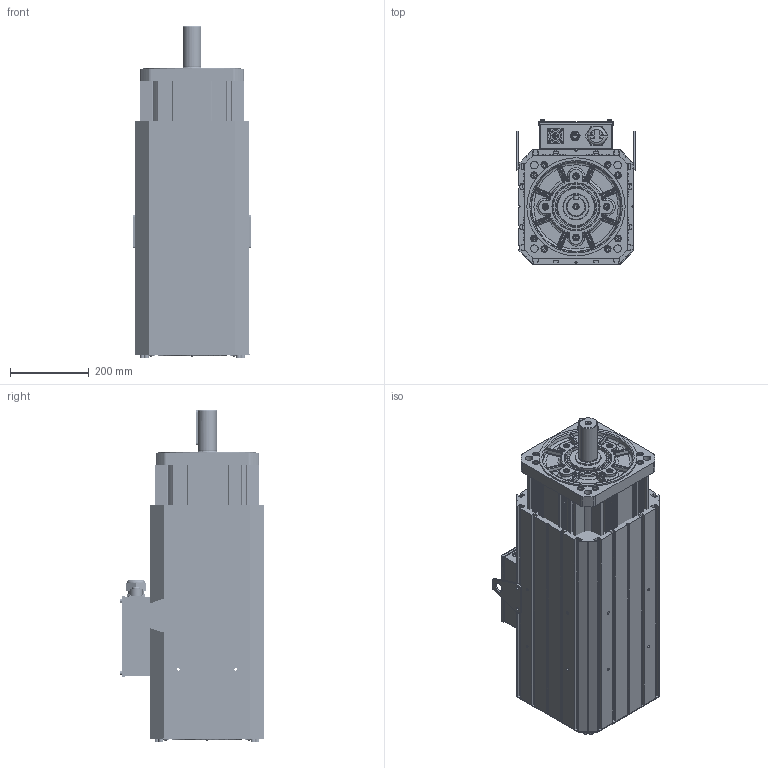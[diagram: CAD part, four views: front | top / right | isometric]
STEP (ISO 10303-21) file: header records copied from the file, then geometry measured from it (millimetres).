
FILE_DESCRIPTION (( 'STEP AP214' ), '1' );
FILE_NAME ('VM7-M26D-05515-D1FNH.STEP', '2022-04-02T01:15:16', ( '' ), ( '' ), 'SwSTEP 2.0', 'SolidWorks 2014', '' );
FILE_SCHEMA (( 'AUTOMOTIVE_DESIGN' ));
Length unit declared in the file: millimetre
Products named in the file (3): 俋褲; VM7-M26D-05515-D1FNH; 翋极
Assembly tree (2 placements, depth 2):
  VM7-M26D-05515-D1FNH
    翋极
    俋褲
Bounding box: 302 x 368.5 x 845 mm (x, y, z)
Volume: 25187717.9 mm3; surface area: 4215612.7 mm2
Topology: 120 solids, 120 shells, 4432 faces, 11332 edges, 7180 vertices
Faces by surface type: plane 2597, cylinder 1089, bspline 445, cone 301
Entity records: 152572 total; most frequent: CARTESIAN_POINT 45525, ORIENTED_EDGE 22412, DIRECTION 21224, EDGE_CURVE 11206, VECTOR 7212, LINE 7212, VERTEX_POINT 7180, AXIS2_PLACEMENT_3D 7006
